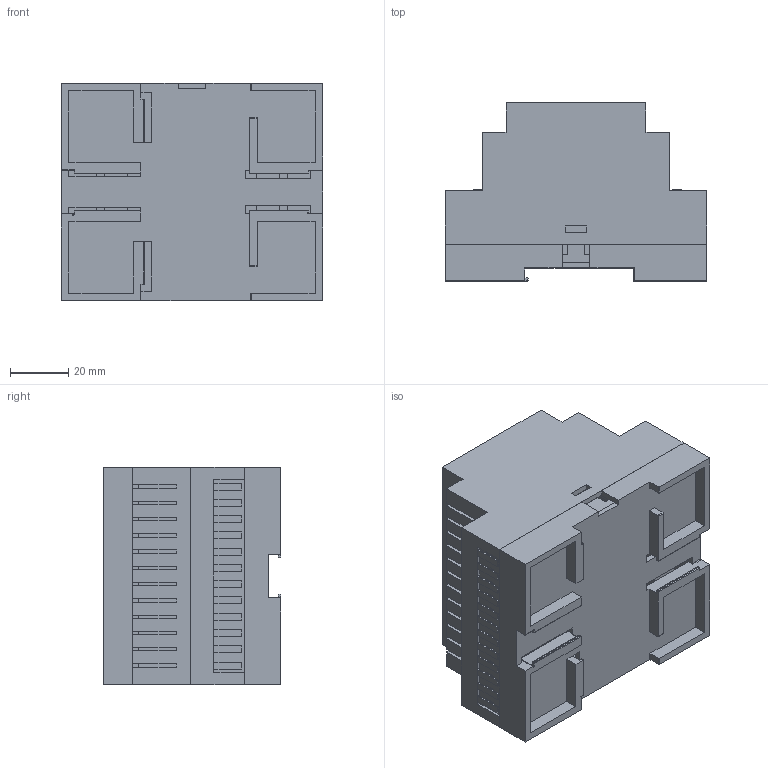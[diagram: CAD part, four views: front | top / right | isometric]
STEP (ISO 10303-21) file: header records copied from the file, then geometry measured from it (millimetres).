
FILE_DESCRIPTION (( 'STEP AP214' ), '1' );
FILE_NAME ('PM-024S-2.5.STEP', '2026-05-13T04:26:36', ( '' ), ( '' ), 'SwSTEP 2.0', 'SolidWorks 2022', '' );
FILE_SCHEMA (( 'AUTOMOTIVE_DESIGN' ));
Length unit declared in the file: millimetre
Products named in the file (1): PM-024S-2.5
Bounding box: 89.5 x 61 x 74.55 mm (x, y, z)
Volume: 62082.3 mm3; surface area: 70113.9 mm2
Topology: 23 solids, 23 shells, 2418 faces, 6479 edges, 4294 vertices
Faces by surface type: plane 1673, bspline 425, cylinder 304, sphere 10, torus 6
Entity records: 95979 total; most frequent: CARTESIAN_POINT 36905, ORIENTED_EDGE 12938, DIRECTION 10272, EDGE_CURVE 6469, VECTOR 4926, LINE 4926, VERTEX_POINT 4294, EDGE_LOOP 2773
